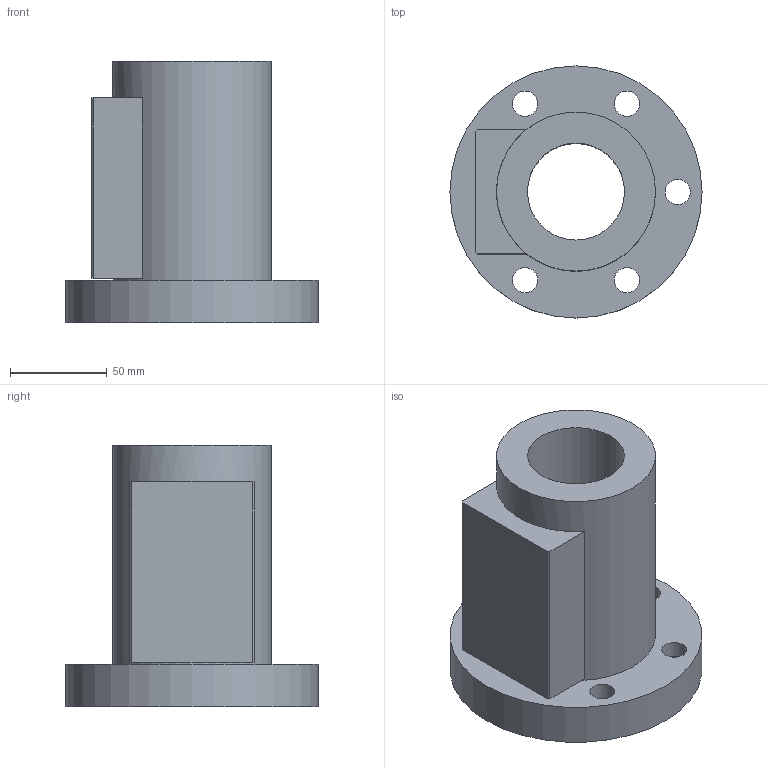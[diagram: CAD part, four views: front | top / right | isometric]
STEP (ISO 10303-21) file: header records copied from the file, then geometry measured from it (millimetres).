
FILE_DESCRIPTION(/* description */ (''),/* implementation_level */ '2;1');
FILE_NAME(/* name */ '50-40A1',/* time_stamp */ '2006-07-31T12:01:03+08:00',/* author */ (''),/* organization */ (''),/* preprocessor_version */ 'ST-DEVELOPER v9',/* originating_system */ 'UGS - NX 4.0',/* authorisation */ '');
FILE_SCHEMA (('CONFIG_CONTROL_DESIGN'));
Length unit declared in the file: millimetre
Products named in the file (1): 50-40A1
Bounding box: 130 x 130 x 135 mm (x, y, z)
Volume: 690443.2 mm3; surface area: 92436.6 mm2
Topology: 1 solids, 1 shells, 28 faces, 61 edges, 42 vertices
Faces by surface type: plane 15, cylinder 13
Full cylindrical faces by diameter (mm): 13 x5, 20 x5, 50 x1, 82 x1, 130 x1
Entity records: 794 total; most frequent: DIRECTION 130, CARTESIAN_POINT 111, ORIENTED_EDGE 88, EDGE_LOOP 60, AXIS2_PLACEMENT_3D 57, FACE_BOUND 45, EDGE_CURVE 44, VERTEX_POINT 38
